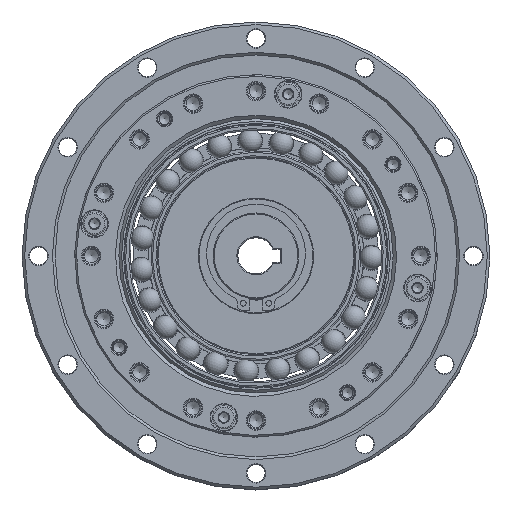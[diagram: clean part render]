
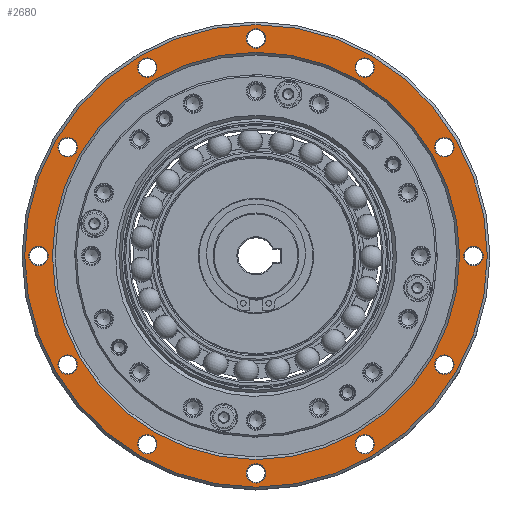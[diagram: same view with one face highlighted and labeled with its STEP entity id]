
A CAD part, top view. The second image highlights one B-rep face of the part: STEP entity #2680.
In plain terms, the highlighted planar face has unit normal (0, 0, 1).
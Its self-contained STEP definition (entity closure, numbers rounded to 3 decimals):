
#2680=ADVANCED_FACE('',(#3844,#3845,#3846,#3847,#3848,#3849,#3850,#3851,
#3852,#3853,#3854,#3855,#3856,#3857),#3387,.T.);
#3387=PLANE('',#12404);
#3844=FACE_BOUND('',#4901,.T.);
#3845=FACE_BOUND('',#4902,.T.);
#3846=FACE_BOUND('',#4903,.T.);
#3847=FACE_BOUND('',#4904,.T.);
#3848=FACE_BOUND('',#4905,.T.);
#3849=FACE_BOUND('',#4906,.T.);
#3850=FACE_BOUND('',#4907,.T.);
#3851=FACE_BOUND('',#4908,.T.);
#3852=FACE_BOUND('',#4909,.T.);
#3853=FACE_BOUND('',#4910,.T.);
#3854=FACE_BOUND('',#4911,.T.);
#3855=FACE_BOUND('',#4912,.T.);
#3856=FACE_BOUND('',#4913,.T.);
#3857=FACE_BOUND('',#4914,.T.);
#4901=EDGE_LOOP('',(#6245));
#4902=EDGE_LOOP('',(#6246));
#4903=EDGE_LOOP('',(#6247));
#4904=EDGE_LOOP('',(#6248));
#4905=EDGE_LOOP('',(#6249));
#4906=EDGE_LOOP('',(#6250));
#4907=EDGE_LOOP('',(#6251));
#4908=EDGE_LOOP('',(#6252));
#4909=EDGE_LOOP('',(#6253));
#4910=EDGE_LOOP('',(#6254));
#4911=EDGE_LOOP('',(#6255));
#4912=EDGE_LOOP('',(#6256));
#4913=EDGE_LOOP('',(#6257));
#4914=EDGE_LOOP('',(#6258));
#6245=ORIENTED_EDGE('',*,*,#10041,.T.);
#6246=ORIENTED_EDGE('',*,*,#10042,.T.);
#6247=ORIENTED_EDGE('',*,*,#10043,.T.);
#6248=ORIENTED_EDGE('',*,*,#10044,.T.);
#6249=ORIENTED_EDGE('',*,*,#10045,.T.);
#6250=ORIENTED_EDGE('',*,*,#10046,.T.);
#6251=ORIENTED_EDGE('',*,*,#10047,.T.);
#6252=ORIENTED_EDGE('',*,*,#10048,.T.);
#6253=ORIENTED_EDGE('',*,*,#10049,.T.);
#6254=ORIENTED_EDGE('',*,*,#10050,.T.);
#6255=ORIENTED_EDGE('',*,*,#10051,.T.);
#6256=ORIENTED_EDGE('',*,*,#10052,.T.);
#6257=ORIENTED_EDGE('',*,*,#10053,.T.);
#6258=ORIENTED_EDGE('',*,*,#10040,.F.);
#8938=VERTEX_POINT('',#17959);
#8939=VERTEX_POINT('',#17962);
#8940=VERTEX_POINT('',#17964);
#8941=VERTEX_POINT('',#17966);
#8942=VERTEX_POINT('',#17968);
#8943=VERTEX_POINT('',#17970);
#8944=VERTEX_POINT('',#17972);
#8945=VERTEX_POINT('',#17974);
#8946=VERTEX_POINT('',#17976);
#8947=VERTEX_POINT('',#17978);
#8948=VERTEX_POINT('',#17980);
#8949=VERTEX_POINT('',#17982);
#8950=VERTEX_POINT('',#17984);
#8951=VERTEX_POINT('',#17986);
#10040=EDGE_CURVE('',#8938,#8938,#11427,.T.);
#10041=EDGE_CURVE('',#8939,#8939,#11428,.T.);
#10042=EDGE_CURVE('',#8940,#8940,#11429,.T.);
#10043=EDGE_CURVE('',#8941,#8941,#11430,.T.);
#10044=EDGE_CURVE('',#8942,#8942,#11431,.T.);
#10045=EDGE_CURVE('',#8943,#8943,#11432,.T.);
#10046=EDGE_CURVE('',#8944,#8944,#11433,.T.);
#10047=EDGE_CURVE('',#8945,#8945,#11434,.T.);
#10048=EDGE_CURVE('',#8946,#8946,#11435,.T.);
#10049=EDGE_CURVE('',#8947,#8947,#11436,.T.);
#10050=EDGE_CURVE('',#8948,#8948,#11437,.T.);
#10051=EDGE_CURVE('',#8949,#8949,#11438,.T.);
#10052=EDGE_CURVE('',#8950,#8950,#11439,.T.);
#10053=EDGE_CURVE('',#8951,#8951,#11440,.T.);
#11427=CIRCLE('',#12389,70.2);
#11428=CIRCLE('',#12391,2.95);
#11429=CIRCLE('',#12392,2.95);
#11430=CIRCLE('',#12393,2.95);
#11431=CIRCLE('',#12394,2.95);
#11432=CIRCLE('',#12395,2.95);
#11433=CIRCLE('',#12396,2.95);
#11434=CIRCLE('',#12397,2.95);
#11435=CIRCLE('',#12398,2.95);
#11436=CIRCLE('',#12399,2.95);
#11437=CIRCLE('',#12400,2.95);
#11438=CIRCLE('',#12401,2.95);
#11439=CIRCLE('',#12402,2.95);
#11440=CIRCLE('',#12403,61.8);
#12389=AXIS2_PLACEMENT_3D('',#17958,#14284,#14285);
#12391=AXIS2_PLACEMENT_3D('',#17961,#14288,#14289);
#12392=AXIS2_PLACEMENT_3D('',#17963,#14290,#14291);
#12393=AXIS2_PLACEMENT_3D('',#17965,#14292,#14293);
#12394=AXIS2_PLACEMENT_3D('',#17967,#14294,#14295);
#12395=AXIS2_PLACEMENT_3D('',#17969,#14296,#14297);
#12396=AXIS2_PLACEMENT_3D('',#17971,#14298,#14299);
#12397=AXIS2_PLACEMENT_3D('',#17973,#14300,#14301);
#12398=AXIS2_PLACEMENT_3D('',#17975,#14302,#14303);
#12399=AXIS2_PLACEMENT_3D('',#17977,#14304,#14305);
#12400=AXIS2_PLACEMENT_3D('',#17979,#14306,#14307);
#12401=AXIS2_PLACEMENT_3D('',#17981,#14308,#14309);
#12402=AXIS2_PLACEMENT_3D('',#17983,#14310,#14311);
#12403=AXIS2_PLACEMENT_3D('',#17985,#14312,#14313);
#12404=AXIS2_PLACEMENT_3D('',#17987,#14314,#14315);
#14284=DIRECTION('',(0.,0.,-1.));
#14285=DIRECTION('',(-1.,0.,0.));
#14288=DIRECTION('',(0.,0.,-1.));
#14289=DIRECTION('',(1.,0.,0.));
#14290=DIRECTION('',(0.,0.,-1.));
#14291=DIRECTION('',(1.,0.,0.));
#14292=DIRECTION('',(0.,0.,-1.));
#14293=DIRECTION('',(1.,0.,0.));
#14294=DIRECTION('',(0.,0.,-1.));
#14295=DIRECTION('',(1.,0.,0.));
#14296=DIRECTION('',(0.,0.,-1.));
#14297=DIRECTION('',(1.,0.,0.));
#14298=DIRECTION('',(0.,0.,-1.));
#14299=DIRECTION('',(1.,0.,0.));
#14300=DIRECTION('',(0.,0.,-1.));
#14301=DIRECTION('',(1.,0.,0.));
#14302=DIRECTION('',(0.,0.,-1.));
#14303=DIRECTION('',(1.,0.,0.));
#14304=DIRECTION('',(0.,0.,-1.));
#14305=DIRECTION('',(1.,0.,0.));
#14306=DIRECTION('',(0.,0.,-1.));
#14307=DIRECTION('',(1.,0.,0.));
#14308=DIRECTION('',(0.,0.,-1.));
#14309=DIRECTION('',(1.,0.,0.));
#14310=DIRECTION('',(0.,0.,-1.));
#14311=DIRECTION('',(1.,0.,0.));
#14312=DIRECTION('',(0.,0.,-1.));
#14313=DIRECTION('',(-1.,0.,0.));
#14314=DIRECTION('',(0.,0.,1.));
#14315=DIRECTION('',(1.,0.,0.));
#17958=CARTESIAN_POINT('',(0.,0.,23.4));
#17959=CARTESIAN_POINT('',(-70.2,0.,23.4));
#17961=CARTESIAN_POINT('',(33.,-57.158,23.4));
#17962=CARTESIAN_POINT('',(35.95,-57.158,23.4));
#17963=CARTESIAN_POINT('',(57.158,-33.,23.4));
#17964=CARTESIAN_POINT('',(60.108,-33.,23.4));
#17965=CARTESIAN_POINT('',(66.,0.,23.4));
#17966=CARTESIAN_POINT('',(68.95,0.,23.4));
#17967=CARTESIAN_POINT('',(57.158,33.,23.4));
#17968=CARTESIAN_POINT('',(60.108,33.,23.4));
#17969=CARTESIAN_POINT('',(33.,57.158,23.4));
#17970=CARTESIAN_POINT('',(35.95,57.158,23.4));
#17971=CARTESIAN_POINT('',(0.,66.,23.4));
#17972=CARTESIAN_POINT('',(2.95,66.,23.4));
#17973=CARTESIAN_POINT('',(-33.,57.158,23.4));
#17974=CARTESIAN_POINT('',(-30.05,57.158,23.4));
#17975=CARTESIAN_POINT('',(-57.158,33.,23.4));
#17976=CARTESIAN_POINT('',(-54.208,33.,23.4));
#17977=CARTESIAN_POINT('',(-66.,0.,23.4));
#17978=CARTESIAN_POINT('',(-63.05,0.,23.4));
#17979=CARTESIAN_POINT('',(-57.158,-33.,23.4));
#17980=CARTESIAN_POINT('',(-54.208,-33.,23.4));
#17981=CARTESIAN_POINT('',(-33.,-57.158,23.4));
#17982=CARTESIAN_POINT('',(-30.05,-57.158,23.4));
#17983=CARTESIAN_POINT('',(0.,-66.,23.4));
#17984=CARTESIAN_POINT('',(2.95,-66.,23.4));
#17985=CARTESIAN_POINT('',(0.,0.,23.4));
#17986=CARTESIAN_POINT('',(-61.8,0.,23.4));
#17987=CARTESIAN_POINT('',(70.2,0.,23.4));
